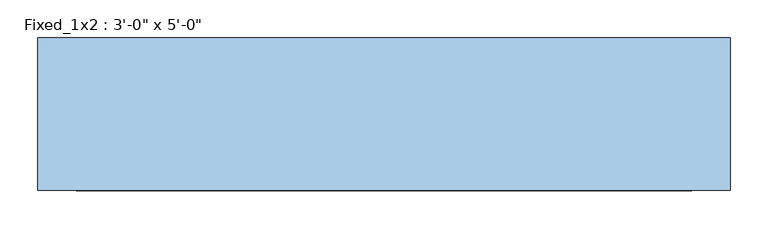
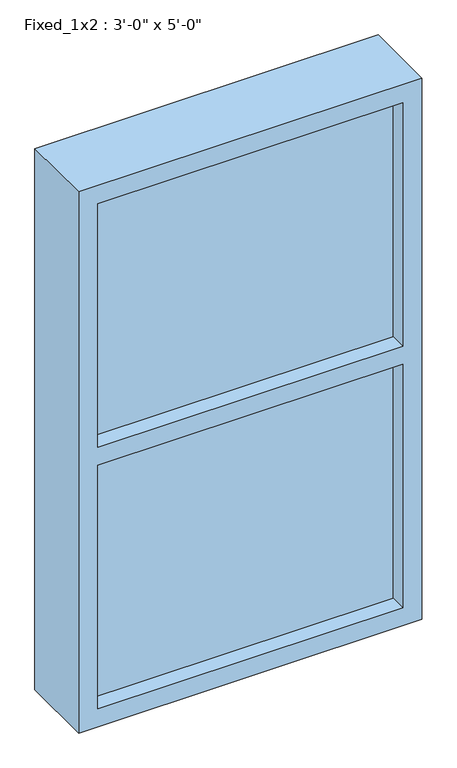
"""IFC4 building model written with IfcOpenShell, lengths in millimetres: window geometry."""

from ifc_helpers import new_model, si_unit, frame, origin, place, context, project, spatial, polyline, outline, extrude, source, transform, mapped, element, save


def window_880e6243(model_context):
    return source(origin(), model_context, "Body", "SweptSolid", [
        extrude(outline(polyline([(-1320.8, -82.9137746), (-1320.8, -57.5137746), (-508.0, -57.5137746), (-508.0, -82.9137746), (-1320.8, -82.9137746)])), frame((0.0, 0.0, 1109.0367551), z_axis=(0.0, 0.0, 1.0), x_axis=(1.0, 0.0, 0.0)), (0.0, 0.0, 1.0), 685.8),
        extrude(outline(polyline([(-1320.8, -82.9137746), (-1320.8, -57.5137746), (-508.0, -57.5137746), (-508.0, -82.9137746), (-1320.8, -82.9137746)])), frame((0.0, 0.0, 1845.6367551), z_axis=(0.0, 0.0, 1.0), x_axis=(1.0, 0.0, 0.0)), (0.0, 0.0, 1.0), 685.8),
        extrude(outline(polyline([(2582.2367551, -1371.6), (1058.2367551, -1371.6), (1058.2367551, -457.2), (2582.2367551, -457.2), (2582.2367551, -1371.6)]), holes=[polyline([(2531.4367551, -1320.8), (2531.4367551, -508.0), (1845.6367551, -508.0), (1845.6367551, -1320.8), (2531.4367551, -1320.8)]), polyline([(1794.8367551, -1320.8), (1794.8367551, -508.0), (1109.0367551, -508.0), (1109.0367551, -1320.8), (1794.8367551, -1320.8)])]), frame((0.0, -127.3637746, 0.0), z_axis=(0.0, 1.0, 0.0), x_axis=(0.0, 0.0, 1.0)), (0.0, 0.0, 1.0), 201.6125),
    ])


if __name__ == "__main__":
    model = new_model("IFC4")
    model_context = context("Model", 3, world=origin())
    ifc_project = project(units=[si_unit("LENGTHUNIT", "METRE", prefix="MILLI")], contexts=[model_context])
    site = spatial("IfcSite", under=ifc_project)
    building = spatial("IfcBuilding", under=site)
    placement = place(None, origin())
    window_shape = window_880e6243(model_context)
    element("IfcWindow", 1, ObjectType="Fixed_1x2 : 3'-0\" x 5'-0\"", at=placement, inside=building, context=model_context, shape_type="MappedRepresentation", body=[
        mapped(window_shape, transform((0.0, 0.0, 0.0), x_axis=(1.0, 0.0, 0.0), y_axis=(0.0, 1.0, 0.0), z_axis=(0.0, 0.0, 1.0))),
    ])
    save(model, "model.ifc")
